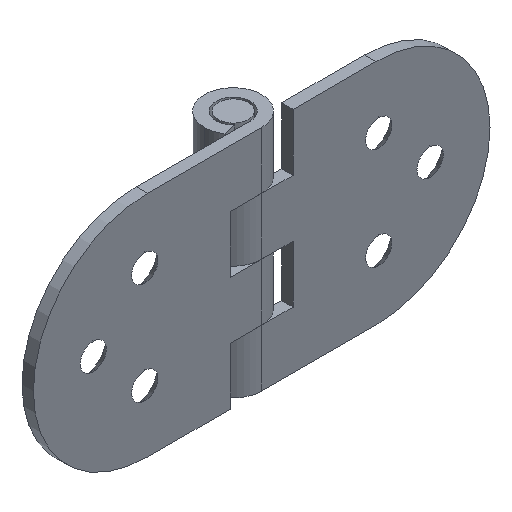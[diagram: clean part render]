
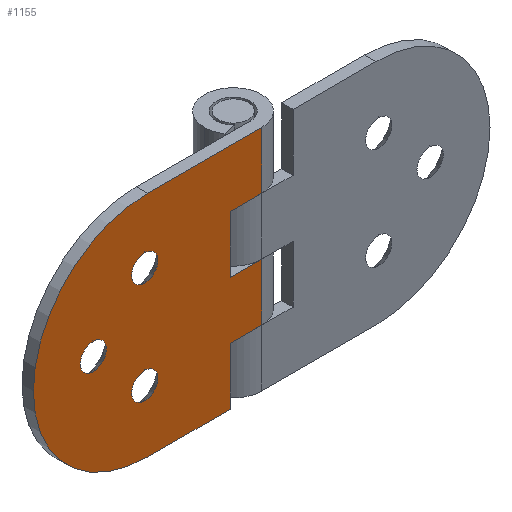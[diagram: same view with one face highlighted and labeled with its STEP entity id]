
A CAD part, isometric view. The second image highlights one B-rep face of the part: STEP entity #1155.
In plain terms, the highlighted planar face has unit normal (0, -1, 0).
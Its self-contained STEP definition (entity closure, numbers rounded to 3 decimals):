
#2 = DIRECTION ( 'NONE',  ( 0., 1., 0. ) ) ;
#9 = EDGE_CURVE ( 'NONE', #361, #961, #103, .T. ) ;
#19 = EDGE_CURVE ( 'NONE', #304, #453, #801, .T. ) ;
#27 = CARTESIAN_POINT ( 'NONE',  ( 26.211, 0.831, 10. ) ) ;
#29 = ORIENTED_EDGE ( 'NONE', *, *, #586, .T. ) ;
#39 = DIRECTION ( 'NONE',  ( 1., 0., 0. ) ) ;
#41 = VECTOR ( 'NONE', #39, 1000. ) ;
#49 = VERTEX_POINT ( 'NONE', #904 ) ;
#57 = VECTOR ( 'NONE', #142, 1000. ) ;
#72 = LINE ( 'NONE', #1424, #956 ) ;
#81 = CARTESIAN_POINT ( 'NONE',  ( 0.711, 0.831, -6.63 ) ) ;
#84 = DIRECTION ( 'NONE',  ( 0., 0., -1. ) ) ;
#88 = CIRCLE ( 'NONE', #626, 2.3 ) ;
#96 = CARTESIAN_POINT ( 'NONE',  ( 15.711, 0.831, -20. ) ) ;
#103 = LINE ( 'NONE', #1201, #1263 ) ;
#110 = DIRECTION ( 'NONE',  ( -1., 0., 0. ) ) ;
#124 = CARTESIAN_POINT ( 'NONE',  ( -8.289, 0.831, -2.3 ) ) ;
#128 = VERTEX_POINT ( 'NONE', #1392 ) ;
#142 = DIRECTION ( 'NONE',  ( 0., 0., -1. ) ) ;
#143 = AXIS2_PLACEMENT_3D ( 'NONE', #560, #676, #1229 ) ;
#159 = DIRECTION ( 'NONE',  ( 0., 1., 0. ) ) ;
#193 = EDGE_CURVE ( 'NONE', #453, #590, #337, .T. ) ;
#220 = CARTESIAN_POINT ( 'NONE',  ( 21.211, 0.831, 20. ) ) ;
#229 = CARTESIAN_POINT ( 'NONE',  ( 21.211, 0.831, -10. ) ) ;
#234 = DIRECTION ( 'NONE',  ( 0., 1., 0. ) ) ;
#240 = CIRCLE ( 'NONE', #1017, 2.3 ) ;
#248 = CARTESIAN_POINT ( 'NONE',  ( 21.211, 0.831, 20. ) ) ;
#254 = CARTESIAN_POINT ( 'NONE',  ( 0.711, 0.831, 8.93 ) ) ;
#262 = CARTESIAN_POINT ( 'NONE',  ( 21.211, 0.831, 20. ) ) ;
#273 = LINE ( 'NONE', #262, #1141 ) ;
#275 = EDGE_CURVE ( 'NONE', #361, #1269, #446, .T. ) ;
#282 = ORIENTED_EDGE ( 'NONE', *, *, #461, .T. ) ;
#292 = EDGE_LOOP ( 'NONE', ( #385, #1385, #704, #1142, #1241, #320, #1046, #879, #324, #314 ) ) ;
#304 = VERTEX_POINT ( 'NONE', #1353 ) ;
#311 = VECTOR ( 'NONE', #1240, 1000. ) ;
#312 = VECTOR ( 'NONE', #774, 1000. ) ;
#314 = ORIENTED_EDGE ( 'NONE', *, *, #941, .F. ) ;
#319 = AXIS2_PLACEMENT_3D ( 'NONE', #645, #1079, #759 ) ;
#320 = ORIENTED_EDGE ( 'NONE', *, *, #1407, .F. ) ;
#324 = ORIENTED_EDGE ( 'NONE', *, *, #1343, .F. ) ;
#329 = CARTESIAN_POINT ( 'NONE',  ( 26.211, 0.831, -10. ) ) ;
#337 = LINE ( 'NONE', #688, #57 ) ;
#348 = FACE_OUTER_BOUND ( 'NONE', #292, .T. ) ;
#355 = ORIENTED_EDGE ( 'NONE', *, *, #1013, .T. ) ;
#361 = VERTEX_POINT ( 'NONE', #1273 ) ;
#372 = DIRECTION ( 'NONE',  ( -1., 0., 0. ) ) ;
#385 = ORIENTED_EDGE ( 'NONE', *, *, #275, .F. ) ;
#444 = DIRECTION ( 'NONE',  ( -1., 0., 0. ) ) ;
#446 = CIRCLE ( 'NONE', #143, 20. ) ;
#448 = CARTESIAN_POINT ( 'NONE',  ( 0.711, 0.831, 8.93 ) ) ;
#451 = VECTOR ( 'NONE', #1315, 1000. ) ;
#453 = VERTEX_POINT ( 'NONE', #835 ) ;
#461 = EDGE_CURVE ( 'NONE', #599, #951, #240, .T. ) ;
#463 = FACE_BOUND ( 'NONE', #733, .T. ) ;
#466 = LINE ( 'NONE', #576, #312 ) ;
#475 = CARTESIAN_POINT ( 'NONE',  ( 0.711, 0.831, -8.93 ) ) ;
#487 = CARTESIAN_POINT ( 'NONE',  ( 15.711, 0.831, -10. ) ) ;
#497 = CARTESIAN_POINT ( 'NONE',  ( 26.211, 0.831, 0. ) ) ;
#544 = CIRCLE ( 'NONE', #802, 2.3 ) ;
#560 = CARTESIAN_POINT ( 'NONE',  ( 1.211, 0.831, 0. ) ) ;
#572 = CIRCLE ( 'NONE', #319, 2.3 ) ;
#576 = CARTESIAN_POINT ( 'NONE',  ( 15.711, 0.831, -20. ) ) ;
#586 = EDGE_CURVE ( 'NONE', #128, #1143, #572, .T. ) ;
#590 = VERTEX_POINT ( 'NONE', #1087 ) ;
#599 = VERTEX_POINT ( 'NONE', #81 ) ;
#616 = DIRECTION ( 'NONE',  ( 0., 1., 0. ) ) ;
#619 = CARTESIAN_POINT ( 'NONE',  ( -8.289, 0.831, 0. ) ) ;
#626 = AXIS2_PLACEMENT_3D ( 'NONE', #619, #1261, #1059 ) ;
#634 = EDGE_LOOP ( 'NONE', ( #29, #1150 ) ) ;
#645 = CARTESIAN_POINT ( 'NONE',  ( -8.289, 0.831, 0. ) ) ;
#654 = CARTESIAN_POINT ( 'NONE',  ( 0.711, 0.831, -11.23 ) ) ;
#676 = DIRECTION ( 'NONE',  ( 0., 1., 0. ) ) ;
#679 = VERTEX_POINT ( 'NONE', #761 ) ;
#688 = CARTESIAN_POINT ( 'NONE',  ( 15.711, 0.831, 0. ) ) ;
#704 = ORIENTED_EDGE ( 'NONE', *, *, #1051, .F. ) ;
#729 = CIRCLE ( 'NONE', #1100, 2.3 ) ;
#733 = EDGE_LOOP ( 'NONE', ( #282, #1180 ) ) ;
#759 = DIRECTION ( 'NONE',  ( -1., 0., 0. ) ) ;
#761 = CARTESIAN_POINT ( 'NONE',  ( 0.711, 0.831, 6.63 ) ) ;
#774 = DIRECTION ( 'NONE',  ( 0., 0., -1. ) ) ;
#796 = DIRECTION ( 'NONE',  ( -1., 0., 0. ) ) ;
#801 = LINE ( 'NONE', #27, #311 ) ;
#802 = AXIS2_PLACEMENT_3D ( 'NONE', #254, #2, #444 ) ;
#807 = FACE_BOUND ( 'NONE', #634, .T. ) ;
#835 = CARTESIAN_POINT ( 'NONE',  ( 15.711, 0.831, 10. ) ) ;
#867 = CARTESIAN_POINT ( 'NONE',  ( 21.211, 0.831, 20. ) ) ;
#870 = VECTOR ( 'NONE', #372, 1000. ) ;
#879 = ORIENTED_EDGE ( 'NONE', *, *, #19, .F. ) ;
#889 = VERTEX_POINT ( 'NONE', #1178 ) ;
#896 = EDGE_CURVE ( 'NONE', #889, #1020, #72, .T. ) ;
#904 = CARTESIAN_POINT ( 'NONE',  ( 0.711, 0.831, 11.23 ) ) ;
#915 = DIRECTION ( 'NONE',  ( -1., 0., 0. ) ) ;
#941 = EDGE_CURVE ( 'NONE', #1269, #945, #1405, .T. ) ;
#945 = VERTEX_POINT ( 'NONE', #220 ) ;
#951 = VERTEX_POINT ( 'NONE', #654 ) ;
#956 = VECTOR ( 'NONE', #84, 1000. ) ;
#961 = VERTEX_POINT ( 'NONE', #96 ) ;
#1013 = EDGE_CURVE ( 'NONE', #679, #49, #1055, .T. ) ;
#1017 = AXIS2_PLACEMENT_3D ( 'NONE', #1154, #616, #1066 ) ;
#1020 = VERTEX_POINT ( 'NONE', #229 ) ;
#1031 = CARTESIAN_POINT ( 'NONE',  ( 1.211, 0.831, 20. ) ) ;
#1034 = LINE ( 'NONE', #497, #41 ) ;
#1046 = ORIENTED_EDGE ( 'NONE', *, *, #193, .F. ) ;
#1051 = EDGE_CURVE ( 'NONE', #1205, #961, #466, .T. ) ;
#1055 = CIRCLE ( 'NONE', #1239, 2.3 ) ;
#1059 = DIRECTION ( 'NONE',  ( -1., 0., 0. ) ) ;
#1066 = DIRECTION ( 'NONE',  ( -1., 0., 0. ) ) ;
#1079 = DIRECTION ( 'NONE',  ( 0., 1., 0. ) ) ;
#1087 = CARTESIAN_POINT ( 'NONE',  ( 15.711, 0.831, 0. ) ) ;
#1100 = AXIS2_PLACEMENT_3D ( 'NONE', #475, #159, #915 ) ;
#1123 = PLANE ( 'NONE',  #1430 ) ;
#1141 = VECTOR ( 'NONE', #1379, 1000. ) ;
#1142 = ORIENTED_EDGE ( 'NONE', *, *, #1179, .F. ) ;
#1143 = VERTEX_POINT ( 'NONE', #124 ) ;
#1150 = ORIENTED_EDGE ( 'NONE', *, *, #1435, .T. ) ;
#1154 = CARTESIAN_POINT ( 'NONE',  ( 0.711, 0.831, -8.93 ) ) ;
#1155 = ADVANCED_FACE ( 'NONE', ( #463, #1352, #807, #348 ), #1123, .F. ) ;
#1157 = EDGE_CURVE ( 'NONE', #49, #679, #544, .T. ) ;
#1178 = CARTESIAN_POINT ( 'NONE',  ( 21.211, 0.831, 0. ) ) ;
#1179 = EDGE_CURVE ( 'NONE', #1020, #1205, #1329, .T. ) ;
#1180 = ORIENTED_EDGE ( 'NONE', *, *, #1276, .T. ) ;
#1201 = CARTESIAN_POINT ( 'NONE',  ( 21.211, 0.831, -20. ) ) ;
#1205 = VERTEX_POINT ( 'NONE', #487 ) ;
#1209 = ORIENTED_EDGE ( 'NONE', *, *, #1157, .T. ) ;
#1229 = DIRECTION ( 'NONE',  ( 1., 0., 0. ) ) ;
#1239 = AXIS2_PLACEMENT_3D ( 'NONE', #448, #234, #110 ) ;
#1240 = DIRECTION ( 'NONE',  ( -1., 0., 0. ) ) ;
#1241 = ORIENTED_EDGE ( 'NONE', *, *, #896, .F. ) ;
#1244 = DIRECTION ( 'NONE',  ( 0., 1., 0. ) ) ;
#1261 = DIRECTION ( 'NONE',  ( 0., 1., 0. ) ) ;
#1263 = VECTOR ( 'NONE', #1316, 1000. ) ;
#1269 = VERTEX_POINT ( 'NONE', #1031 ) ;
#1273 = CARTESIAN_POINT ( 'NONE',  ( 1.211, 0.831, -20. ) ) ;
#1276 = EDGE_CURVE ( 'NONE', #951, #599, #729, .T. ) ;
#1287 = EDGE_LOOP ( 'NONE', ( #1209, #355 ) ) ;
#1315 = DIRECTION ( 'NONE',  ( 1., 0., 0. ) ) ;
#1316 = DIRECTION ( 'NONE',  ( 1., 0., 0. ) ) ;
#1329 = LINE ( 'NONE', #329, #870 ) ;
#1343 = EDGE_CURVE ( 'NONE', #945, #304, #273, .T. ) ;
#1352 = FACE_BOUND ( 'NONE', #1287, .T. ) ;
#1353 = CARTESIAN_POINT ( 'NONE',  ( 21.211, 0.831, 10. ) ) ;
#1379 = DIRECTION ( 'NONE',  ( 0., 0., -1. ) ) ;
#1385 = ORIENTED_EDGE ( 'NONE', *, *, #9, .T. ) ;
#1392 = CARTESIAN_POINT ( 'NONE',  ( -8.289, 0.831, 2.3 ) ) ;
#1405 = LINE ( 'NONE', #867, #451 ) ;
#1407 = EDGE_CURVE ( 'NONE', #590, #889, #1034, .T. ) ;
#1424 = CARTESIAN_POINT ( 'NONE',  ( 21.211, 0.831, 20. ) ) ;
#1430 = AXIS2_PLACEMENT_3D ( 'NONE', #248, #1244, #796 ) ;
#1435 = EDGE_CURVE ( 'NONE', #1143, #128, #88, .T. ) ;
